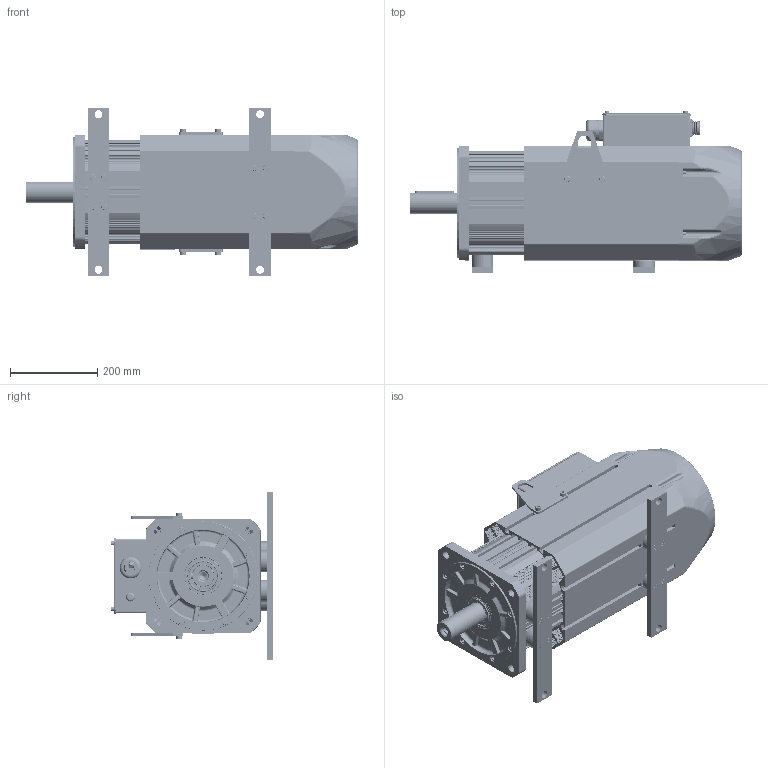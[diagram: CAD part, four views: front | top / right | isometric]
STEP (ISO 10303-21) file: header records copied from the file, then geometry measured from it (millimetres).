
FILE_DESCRIPTION((''),'2;1');
FILE_NAME('IMS20B-26M74D20C-4-R7F-A_ASM','2025-08-25T10:13:48',('0108698'),(''),'CREO PARAMETRIC BY PTC INC, 2019080','CREO PARAMETRIC BY PTC INC, 2019080','');
FILE_SCHEMA(('CONFIG_CONTROL_DESIGN'));
Products named in the file (72): 263T360_A; 631000; 80100320_AF0; 2630002_ASM; 2630003; 2630004; M6X160001; 50058-00152_AF0; 2630001_ASM; 263559_A; 2630005_ASM; 80100323_AF0; 263000_ASM; 50057-00008; 50036-00052; 50060-00059; 2630007_ASM; 2630009; 15000; 2630008_ASM; 50034-00098; _0001; 0001; 50051-00002; PDLD_4X12; 2630011; 00; M8X3000; 800; 0003; 0004; L990001; 2630010_ASM; 0005; ISO7045-M4X6-4_8; 0006; ISO7045-M4X8-4_8; WXJXDZ_40200-01002; 0007; _0002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
Assembly tree (142 placements, depth 4):
  IMS20B-26M74D20C-4-R7F-A_ASM
    2630001_ASM
      263T360_A
      631000
      2630002_ASM
        80100320_AF0
      2630003
      2630004
      M6X160001  x6
      50058-00152_AF0
    2630005_ASM
      263559_A
    263000_ASM
      80100323_AF0
    2630007_ASM
      50057-00008
      50036-00052
      50060-00059  x4
    2630008_ASM
      2630009
      15000
    50034-00098
    12116-00061_ASM
      _0001
      0001
      50051-00002
      PDLD_4X12  x4
      2630010_ASM
        2630011
        00  x3
        M8X3000  x6
        800  x6
        800  x6
        0003  x4
        0004
        L990001
      0005
      ISO7045-M4X6-4_8  x2
      0006
      ISO7045-M4X8-4_8
      WXJXDZ_40200-01002  x4
      0007
      _0002
      50060-00134  x4
      0008
      PG11
      PG36
    50034-00031  x2
    50034-00026  x2
    50058-00151_AF0
    50060-00071  x4
    50058-00152_AF1
    50060-00135  x4
    50058-00150
    50066-00059
    50060-00076  x4
    12118-00004_ASM
      80310919
      50034-00012
      80310916  x2
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Bounding box: 760 x 371 x 384 mm (x, y, z)
Volume: 15621828 mm3; surface area: 3765331.1 mm2
Topology: 148 solids, 260 shells, 7714 faces, 20132 edges, 13031 vertices
Faces by surface type: plane 3573, cylinder 2778, cone 505, bspline 481, torus 329, revolution 24, sphere 24
Entity records: 228533 total; most frequent: CARTESIAN_POINT 70630, DIRECTION 33163, ORIENTED_EDGE 32704, EDGE_CURVE 16484, AXIS2_PLACEMENT_3D 11953, VERTEX_POINT 10717, VECTOR 9233, LINE 9233
